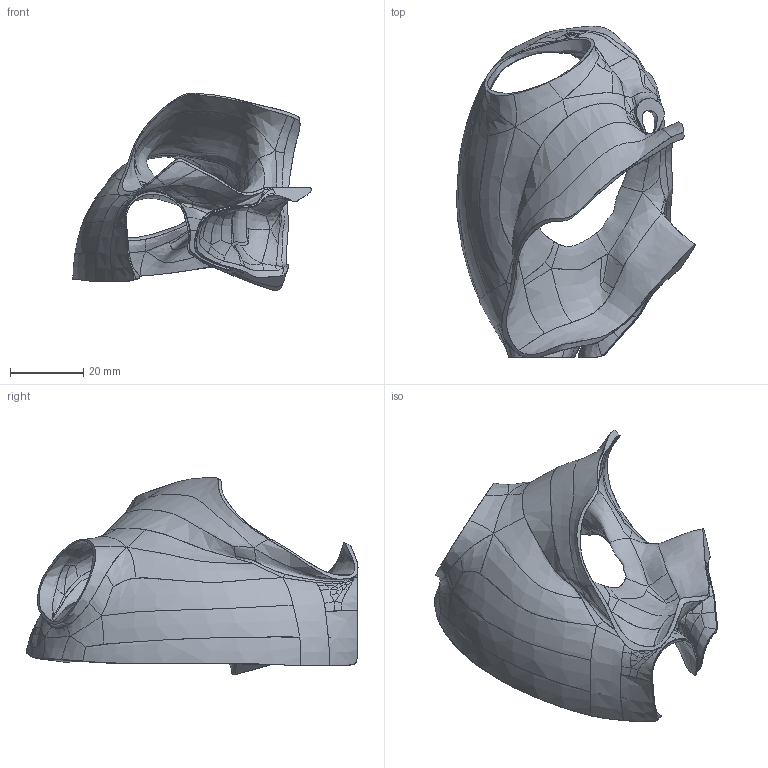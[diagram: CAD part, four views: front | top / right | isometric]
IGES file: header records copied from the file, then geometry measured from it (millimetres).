
Global section: file name: C:\FDA Main\FDA-Septal-Models\9667041\9667041.phase.40.igs; native system: Rhinoceros ( Mar  9 2011 ); preprocessor: Trout Lake IGES 012 Mar  9 2011; date: 120607.042928; units: millimetre
Bounding box: 65.19 x 90.74 x 53.99 mm (x, y, z)
Surface area: 18739.7 mm2 (no closed solid volume)
Topology: 0 solids, 0 shells, 327 faces, 1306 edges, 1304 vertices
Faces by surface type: bspline 327
